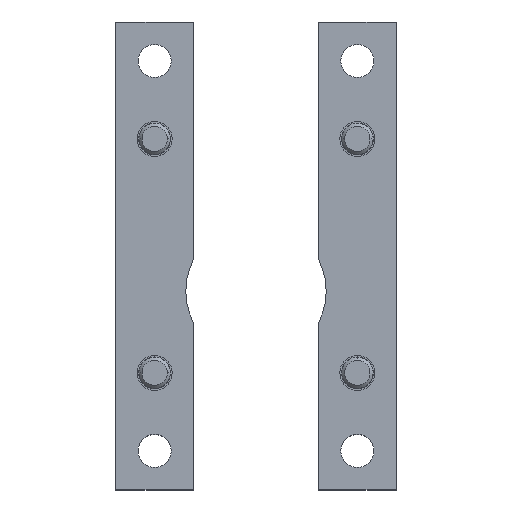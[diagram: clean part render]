
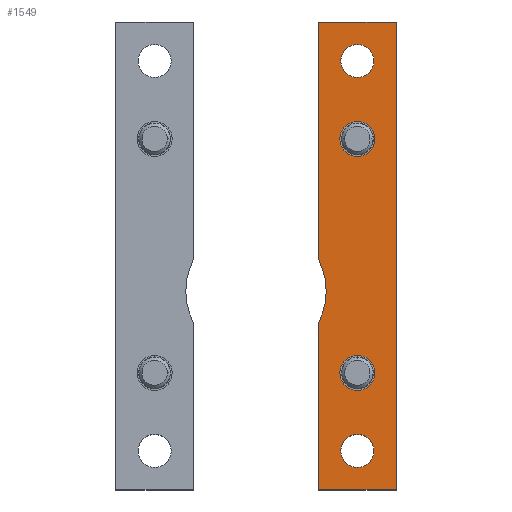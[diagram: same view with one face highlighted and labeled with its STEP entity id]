
A CAD part, top view. The second image highlights one B-rep face of the part: STEP entity #1549.
In plain terms, the highlighted planar face has unit normal (0, 0, 1).
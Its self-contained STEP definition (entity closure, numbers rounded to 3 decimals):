
#7 = CARTESIAN_POINT ( 'NONE',  ( 16., -51., -32. ) ) ;
#12 = CIRCLE ( 'NONE', #199, 18. ) ;
#28 = VECTOR ( 'NONE', #1627, 1000. ) ;
#91 = DIRECTION ( 'NONE',  ( 0., 1., 0. ) ) ;
#113 = DIRECTION ( 'NONE',  ( 0., 1., 0. ) ) ;
#159 = CARTESIAN_POINT ( 'NONE',  ( 26., 43.5, -32. ) ) ;
#199 = AXIS2_PLACEMENT_3D ( 'NONE', #2937, #2259, #1368 ) ;
#220 = VERTEX_POINT ( 'NONE', #2019 ) ;
#283 = CARTESIAN_POINT ( 'NONE',  ( 16., -8.246, -32. ) ) ;
#315 = ORIENTED_EDGE ( 'NONE', *, *, #2067, .T. ) ;
#318 = CARTESIAN_POINT ( 'NONE',  ( 26., -16.5, -32. ) ) ;
#323 = CARTESIAN_POINT ( 'NONE',  ( 26., 9., -32. ) ) ;
#384 = CARTESIAN_POINT ( 'NONE',  ( 26., 39., -32. ) ) ;
#402 = DIRECTION ( 'NONE',  ( 0., 1., 0. ) ) ;
#452 = ORIENTED_EDGE ( 'NONE', *, *, #1871, .T. ) ;
#453 = VECTOR ( 'NONE', #2326, 1000. ) ;
#484 = EDGE_CURVE ( 'NONE', #220, #1571, #3092, .T. ) ;
#536 = VERTEX_POINT ( 'NONE', #1126 ) ;
#623 = CARTESIAN_POINT ( 'NONE',  ( 36., 69., -32. ) ) ;
#627 = VERTEX_POINT ( 'NONE', #2349 ) ;
#662 = CARTESIAN_POINT ( 'NONE',  ( 26., 54.75, -32. ) ) ;
#664 = VERTEX_POINT ( 'NONE', #318 ) ;
#683 = VERTEX_POINT ( 'NONE', #1814 ) ;
#711 = DIRECTION ( 'NONE',  ( 0., 0., -1. ) ) ;
#715 = DIRECTION ( 'NONE',  ( 0., -1., 0. ) ) ;
#720 = DIRECTION ( 'NONE',  ( 0., 1., 0. ) ) ;
#729 = CARTESIAN_POINT ( 'NONE',  ( 26., -21., -32. ) ) ;
#822 = LINE ( 'NONE', #1127, #453 ) ;
#897 = EDGE_CURVE ( 'NONE', #3420, #2674, #3708, .T. ) ;
#910 = AXIS2_PLACEMENT_3D ( 'NONE', #2752, #1567, #402 ) ;
#955 = EDGE_LOOP ( 'NONE', ( #2278, #315 ) ) ;
#1044 = CARTESIAN_POINT ( 'NONE',  ( 16., 69., -32. ) ) ;
#1051 = ORIENTED_EDGE ( 'NONE', *, *, #2714, .T. ) ;
#1080 = EDGE_CURVE ( 'NONE', #536, #3258, #1324, .T. ) ;
#1083 = VECTOR ( 'NONE', #2266, 1000. ) ;
#1098 = EDGE_LOOP ( 'NONE', ( #3862, #3738 ) ) ;
#1126 = CARTESIAN_POINT ( 'NONE',  ( 26., 34.5, -32. ) ) ;
#1127 = CARTESIAN_POINT ( 'NONE',  ( 36., 69., -32. ) ) ;
#1132 = DIRECTION ( 'NONE',  ( 0., 1., 0. ) ) ;
#1249 = CARTESIAN_POINT ( 'NONE',  ( 26., -41., -32. ) ) ;
#1292 = EDGE_CURVE ( 'NONE', #3556, #664, #1835, .T. ) ;
#1310 = LINE ( 'NONE', #1586, #2096 ) ;
#1324 = CIRCLE ( 'NONE', #1388, 4.5 ) ;
#1353 = CARTESIAN_POINT ( 'NONE',  ( 16., 69., -32. ) ) ;
#1368 = DIRECTION ( 'NONE',  ( 0., -1., 0. ) ) ;
#1388 = AXIS2_PLACEMENT_3D ( 'NONE', #384, #3021, #91 ) ;
#1398 = AXIS2_PLACEMENT_3D ( 'NONE', #3405, #3145, #720 ) ;
#1430 = EDGE_CURVE ( 'NONE', #3873, #627, #3653, .T. ) ;
#1460 = ORIENTED_EDGE ( 'NONE', *, *, #1494, .T. ) ;
#1494 = EDGE_CURVE ( 'NONE', #627, #3873, #1569, .T. ) ;
#1517 = DIRECTION ( 'NONE',  ( 0., 1., 0. ) ) ;
#1538 = DIRECTION ( 'NONE',  ( 0., 0., -1. ) ) ;
#1541 = VERTEX_POINT ( 'NONE', #623 ) ;
#1549 = ADVANCED_FACE ( 'NONE', ( #1819, #3015, #3664, #2101, #2764 ), #3628, .F. ) ;
#1566 = DIRECTION ( 'NONE',  ( 0., 0., -1. ) ) ;
#1567 = DIRECTION ( 'NONE',  ( 0., 0., -1. ) ) ;
#1569 = CIRCLE ( 'NONE', #3144, 4.25 ) ;
#1571 = VERTEX_POINT ( 'NONE', #662 ) ;
#1586 = CARTESIAN_POINT ( 'NONE',  ( 16., -51., -32. ) ) ;
#1627 = DIRECTION ( 'NONE',  ( 0., -1., 0. ) ) ;
#1644 = ORIENTED_EDGE ( 'NONE', *, *, #897, .T. ) ;
#1732 = EDGE_CURVE ( 'NONE', #683, #1541, #2813, .T. ) ;
#1814 = CARTESIAN_POINT ( 'NONE',  ( 36., -51., -32. ) ) ;
#1819 = FACE_BOUND ( 'NONE', #2117, .T. ) ;
#1835 = CIRCLE ( 'NONE', #2513, 4.5 ) ;
#1850 = EDGE_CURVE ( 'NONE', #1541, #2064, #822, .T. ) ;
#1871 = EDGE_CURVE ( 'NONE', #2820, #3420, #12, .T. ) ;
#1877 = DIRECTION ( 'NONE',  ( 0., 1., 0. ) ) ;
#1922 = DIRECTION ( 'NONE',  ( 0., 0., -1. ) ) ;
#1932 = LINE ( 'NONE', #3125, #28 ) ;
#1937 = ORIENTED_EDGE ( 'NONE', *, *, #1732, .T. ) ;
#1946 = EDGE_CURVE ( 'NONE', #3258, #536, #2719, .T. ) ;
#1970 = CARTESIAN_POINT ( 'NONE',  ( 26., 39., -32. ) ) ;
#1976 = DIRECTION ( 'NONE',  ( 0., 0., -1. ) ) ;
#2019 = CARTESIAN_POINT ( 'NONE',  ( 26., 63.25, -32. ) ) ;
#2064 = VERTEX_POINT ( 'NONE', #1353 ) ;
#2066 = CARTESIAN_POINT ( 'NONE',  ( 26., -45.25, -32. ) ) ;
#2067 = EDGE_CURVE ( 'NONE', #1571, #220, #2779, .T. ) ;
#2084 = AXIS2_PLACEMENT_3D ( 'NONE', #323, #1538, #1517 ) ;
#2096 = VECTOR ( 'NONE', #2509, 1000. ) ;
#2101 = FACE_BOUND ( 'NONE', #955, .T. ) ;
#2117 = EDGE_LOOP ( 'NONE', ( #1051, #2956 ) ) ;
#2135 = EDGE_CURVE ( 'NONE', #2674, #683, #1310, .T. ) ;
#2148 = VECTOR ( 'NONE', #715, 1000. ) ;
#2259 = DIRECTION ( 'NONE',  ( 0., 0., -1. ) ) ;
#2266 = DIRECTION ( 'NONE',  ( 0., 1., 0. ) ) ;
#2278 = ORIENTED_EDGE ( 'NONE', *, *, #484, .T. ) ;
#2326 = DIRECTION ( 'NONE',  ( -1., 0., 0. ) ) ;
#2349 = CARTESIAN_POINT ( 'NONE',  ( 26., -36.75, -32. ) ) ;
#2509 = DIRECTION ( 'NONE',  ( 1., 0., 0. ) ) ;
#2513 = AXIS2_PLACEMENT_3D ( 'NONE', #729, #1922, #2818 ) ;
#2528 = CIRCLE ( 'NONE', #910, 4.5 ) ;
#2556 = DIRECTION ( 'NONE',  ( 0., 1., 0. ) ) ;
#2670 = EDGE_LOOP ( 'NONE', ( #1460, #3259 ) ) ;
#2674 = VERTEX_POINT ( 'NONE', #7 ) ;
#2714 = EDGE_CURVE ( 'NONE', #664, #3556, #2528, .T. ) ;
#2719 = CIRCLE ( 'NONE', #2966, 4.5 ) ;
#2749 = ORIENTED_EDGE ( 'NONE', *, *, #3377, .T. ) ;
#2752 = CARTESIAN_POINT ( 'NONE',  ( 26., -21., -32. ) ) ;
#2764 = FACE_OUTER_BOUND ( 'NONE', #3019, .T. ) ;
#2779 = CIRCLE ( 'NONE', #2902, 4.25 ) ;
#2813 = LINE ( 'NONE', #3425, #1083 ) ;
#2818 = DIRECTION ( 'NONE',  ( 0., 1., 0. ) ) ;
#2820 = VERTEX_POINT ( 'NONE', #3385 ) ;
#2902 = AXIS2_PLACEMENT_3D ( 'NONE', #3461, #1976, #2556 ) ;
#2925 = ORIENTED_EDGE ( 'NONE', *, *, #2135, .T. ) ;
#2937 = CARTESIAN_POINT ( 'NONE',  ( 0., 0., -32. ) ) ;
#2956 = ORIENTED_EDGE ( 'NONE', *, *, #1292, .T. ) ;
#2964 = ORIENTED_EDGE ( 'NONE', *, *, #1850, .T. ) ;
#2966 = AXIS2_PLACEMENT_3D ( 'NONE', #1970, #711, #113 ) ;
#3015 = FACE_BOUND ( 'NONE', #1098, .T. ) ;
#3019 = EDGE_LOOP ( 'NONE', ( #452, #1644, #2925, #1937, #2964, #2749 ) ) ;
#3021 = DIRECTION ( 'NONE',  ( 0., 0., -1. ) ) ;
#3092 = CIRCLE ( 'NONE', #1398, 4.25 ) ;
#3125 = CARTESIAN_POINT ( 'NONE',  ( 16., 69., -32. ) ) ;
#3144 = AXIS2_PLACEMENT_3D ( 'NONE', #1249, #1566, #1877 ) ;
#3145 = DIRECTION ( 'NONE',  ( 0., 0., -1. ) ) ;
#3258 = VERTEX_POINT ( 'NONE', #159 ) ;
#3259 = ORIENTED_EDGE ( 'NONE', *, *, #1430, .T. ) ;
#3321 = CARTESIAN_POINT ( 'NONE',  ( 26., -25.5, -32. ) ) ;
#3338 = AXIS2_PLACEMENT_3D ( 'NONE', #3870, #3816, #1132 ) ;
#3377 = EDGE_CURVE ( 'NONE', #2064, #2820, #1932, .T. ) ;
#3385 = CARTESIAN_POINT ( 'NONE',  ( 16., 8.246, -32. ) ) ;
#3405 = CARTESIAN_POINT ( 'NONE',  ( 26., 59., -32. ) ) ;
#3420 = VERTEX_POINT ( 'NONE', #283 ) ;
#3425 = CARTESIAN_POINT ( 'NONE',  ( 36., -51., -32. ) ) ;
#3461 = CARTESIAN_POINT ( 'NONE',  ( 26., 59., -32. ) ) ;
#3556 = VERTEX_POINT ( 'NONE', #3321 ) ;
#3628 = PLANE ( 'NONE',  #2084 ) ;
#3653 = CIRCLE ( 'NONE', #3338, 4.25 ) ;
#3664 = FACE_BOUND ( 'NONE', #2670, .T. ) ;
#3708 = LINE ( 'NONE', #1044, #2148 ) ;
#3738 = ORIENTED_EDGE ( 'NONE', *, *, #1080, .T. ) ;
#3816 = DIRECTION ( 'NONE',  ( 0., 0., -1. ) ) ;
#3862 = ORIENTED_EDGE ( 'NONE', *, *, #1946, .T. ) ;
#3870 = CARTESIAN_POINT ( 'NONE',  ( 26., -41., -32. ) ) ;
#3873 = VERTEX_POINT ( 'NONE', #2066 ) ;
